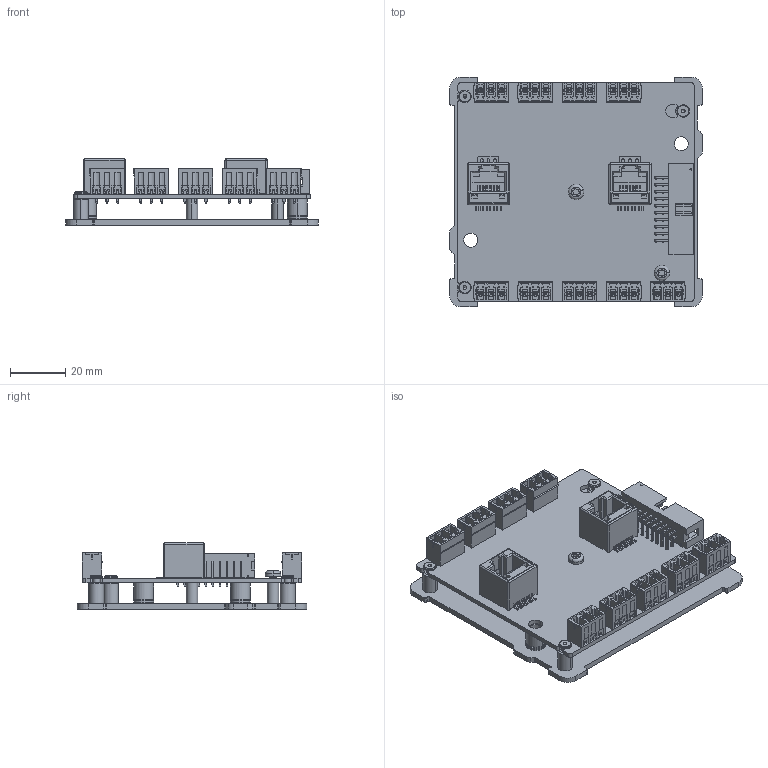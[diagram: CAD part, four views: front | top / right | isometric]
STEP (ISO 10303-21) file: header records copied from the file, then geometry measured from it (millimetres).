
FILE_DESCRIPTION (( 'STEP AP214' ), '1' );
FILE_NAME ('CCIO-8.STEP', '2020-05-06T17:16:58', ( 'Tom Dombroski' ), ( '' ), 'SwSTEP 2.0', 'SolidWorks 2013', '' );
FILE_SCHEMA (( 'AUTOMOTIVE_DESIGN' ));
Length unit declared in the file: inch
Products named in the file (1): CCIO-8
Bounding box: 91.57 x 83.19 x 24 mm (x, y, z)
Volume: 33848.9 mm3; surface area: 48952.9 mm2
Topology: 23 solids, 23 shells, 4833 faces, 13087 edges, 8451 vertices
Faces by surface type: plane 3439, cylinder 723, bspline 553, cone 106, sphere 8, torus 4
Entity records: 216400 total; most frequent: CARTESIAN_POINT 33067, ORIENTED_EDGE 26146, DIRECTION 22747, EDGE_CURVE 13073, VECTOR 11225, LINE 11225, VERTEX_POINT 8451, AXIS2_PLACEMENT_3D 5761
